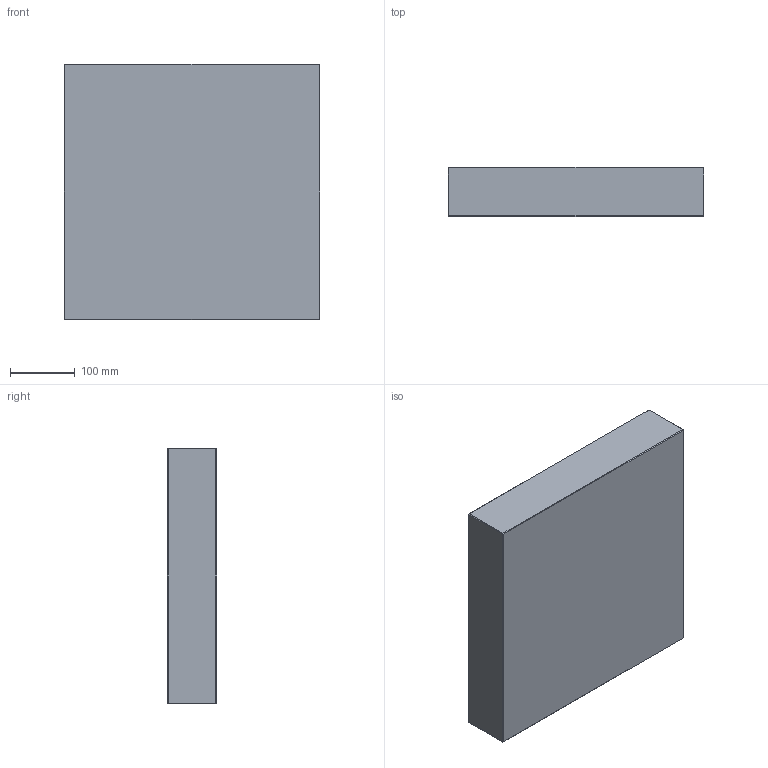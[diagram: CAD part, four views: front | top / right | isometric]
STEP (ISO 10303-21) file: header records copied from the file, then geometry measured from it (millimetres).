
FILE_DESCRIPTION (( 'STEP AP214' ), '1' );
FILE_NAME ('PC-P-396x396x76.STEP', '2020-04-01T10:32:29', ( 'August' ), ( '' ), 'SwSTEP 2.0', 'SolidWorks 2018', '' );
FILE_SCHEMA (( 'AUTOMOTIVE_DESIGN' ));
Length unit declared in the file: millimetre
Products named in the file (1): PC-P-396x396x76
Bounding box: 396 x 76 x 396 mm (x, y, z)
Volume: 11916285.3 mm3; surface area: 431979.1 mm2
Topology: 1 solids, 1 shells, 26 faces, 48 edges, 24 vertices
Faces by surface type: plane 26
Entity records: 634 total; most frequent: DIRECTION 102, CARTESIAN_POINT 99, ORIENTED_EDGE 96, EDGE_CURVE 48, VECTOR 48, LINE 48, AXIS2_PLACEMENT_3D 27, ADVANCED_FACE 26
